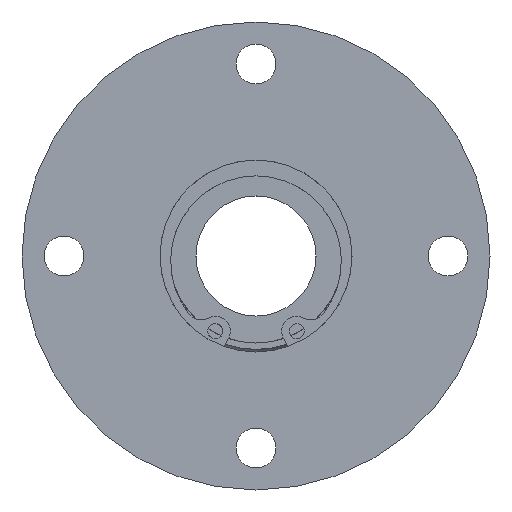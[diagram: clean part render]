
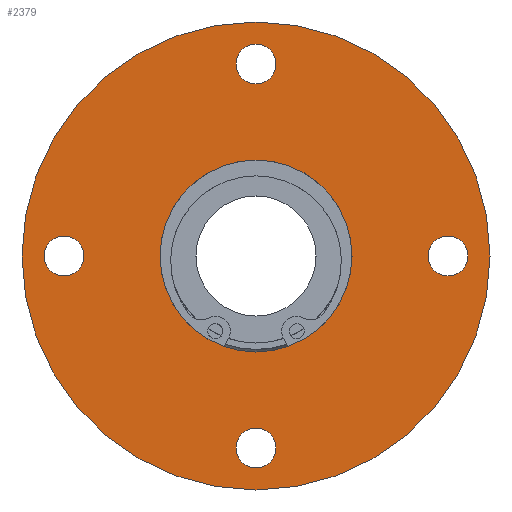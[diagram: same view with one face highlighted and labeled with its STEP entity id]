
A CAD part, left-side view. The second image highlights one B-rep face of the part: STEP entity #2379.
In plain terms, the highlighted planar face has unit normal (-1, 0, 0).
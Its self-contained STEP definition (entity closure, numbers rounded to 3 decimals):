
#1366=CARTESIAN_POINT('',(0.0,32.0,-3.324));
#1367=VERTEX_POINT('',#1366);
#1368=CARTESIAN_POINT('',(0.0,32.0,0.));
#1369=DIRECTION('',(1.0,0.0,0.0));
#1370=DIRECTION('',(0.0,0.0,-1.0));
#1371=AXIS2_PLACEMENT_3D('',#1368,#1369,#1370);
#1372=CIRCLE('',#1371,3.324);
#1373=EDGE_CURVE('',#1367,#1367,#1372,.T.);
#1394=CARTESIAN_POINT('',(0.0,-3.323,-32.0));
#1395=VERTEX_POINT('',#1394);
#1396=CARTESIAN_POINT('',(0.0,0.,-32.0));
#1397=DIRECTION('',(1.0,0.0,0.0));
#1398=DIRECTION('',(0.0,-1.0,0.0));
#1399=AXIS2_PLACEMENT_3D('',#1396,#1397,#1398);
#1400=CIRCLE('',#1399,3.324);
#1401=EDGE_CURVE('',#1395,#1395,#1400,.T.);
#1422=CARTESIAN_POINT('',(0.0,-32.0,3.323));
#1423=VERTEX_POINT('',#1422);
#1424=CARTESIAN_POINT('',(0.0,-32.0,0.));
#1425=DIRECTION('',(1.0,0.0,0.0));
#1426=DIRECTION('',(0.0,0.0,1.0));
#1427=AXIS2_PLACEMENT_3D('',#1424,#1425,#1426);
#1428=CIRCLE('',#1427,3.324);
#1429=EDGE_CURVE('',#1423,#1423,#1428,.T.);
#1450=CARTESIAN_POINT('',(0.0,3.323,32.0));
#1451=VERTEX_POINT('',#1450);
#1452=CARTESIAN_POINT('',(0.0,0.,32.0));
#1453=DIRECTION('',(1.0,0.0,0.0));
#1454=DIRECTION('',(0.0,1.0,0.0));
#1455=AXIS2_PLACEMENT_3D('',#1452,#1453,#1454);
#1456=CIRCLE('',#1455,3.324);
#1457=EDGE_CURVE('',#1451,#1451,#1456,.T.);
#2327=CARTESIAN_POINT('',(0.0,0.0,16.0));
#2328=VERTEX_POINT('',#2327);
#2329=CARTESIAN_POINT('',(0.0,0.0,0.0));
#2330=DIRECTION('',(-1.0,0.0,0.0));
#2331=DIRECTION('',(0.0,0.0,1.0));
#2332=AXIS2_PLACEMENT_3D('',#2329,#2330,#2331);
#2333=CIRCLE('',#2332,16.0);
#2334=EDGE_CURVE('',#2328,#2328,#2333,.T.);
#2348=CARTESIAN_POINT('',(0.0,0.0,27.5));
#2349=DIRECTION('',(-1.0,0.0,0.0));
#2350=DIRECTION('',(0.0,0.0,1.0));
#2351=AXIS2_PLACEMENT_3D('',#2348,#2349,#2350);
#2352=PLANE('',#2351);
#2353=CARTESIAN_POINT('',(0.0,0.0,39.0));
#2354=VERTEX_POINT('',#2353);
#2355=CARTESIAN_POINT('',(0.0,0.0,0.0));
#2356=DIRECTION('',(-1.0,0.0,0.0));
#2357=DIRECTION('',(0.0,0.0,1.0));
#2358=AXIS2_PLACEMENT_3D('',#2355,#2356,#2357);
#2359=CIRCLE('',#2358,39.0);
#2360=EDGE_CURVE('',#2354,#2354,#2359,.T.);
#2361=ORIENTED_EDGE('',*,*,#2360,.T.);
#2362=EDGE_LOOP('',(#2361));
#2363=FACE_OUTER_BOUND('',#2362,.T.);
#2364=ORIENTED_EDGE('',*,*,#1373,.T.);
#2365=EDGE_LOOP('',(#2364));
#2366=FACE_BOUND('',#2365,.T.);
#2367=ORIENTED_EDGE('',*,*,#1401,.T.);
#2368=EDGE_LOOP('',(#2367));
#2369=FACE_BOUND('',#2368,.T.);
#2370=ORIENTED_EDGE('',*,*,#1429,.T.);
#2371=EDGE_LOOP('',(#2370));
#2372=FACE_BOUND('',#2371,.T.);
#2373=ORIENTED_EDGE('',*,*,#1457,.T.);
#2374=EDGE_LOOP('',(#2373));
#2375=FACE_BOUND('',#2374,.T.);
#2376=ORIENTED_EDGE('',*,*,#2334,.F.);
#2377=EDGE_LOOP('',(#2376));
#2378=FACE_BOUND('',#2377,.T.);
#2379=ADVANCED_FACE('',(#2363,#2366,#2369,#2372,#2375,#2378),#2352,.T.);
